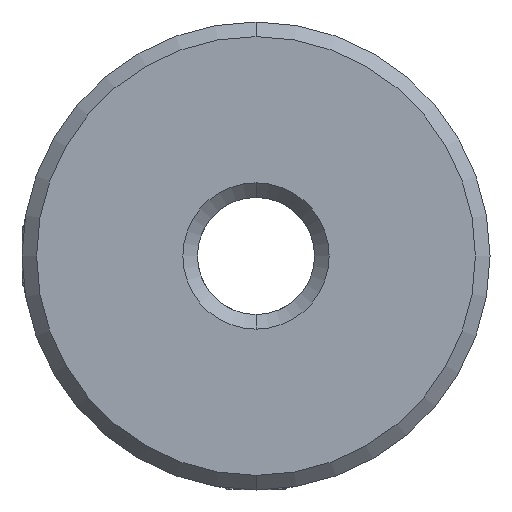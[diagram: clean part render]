
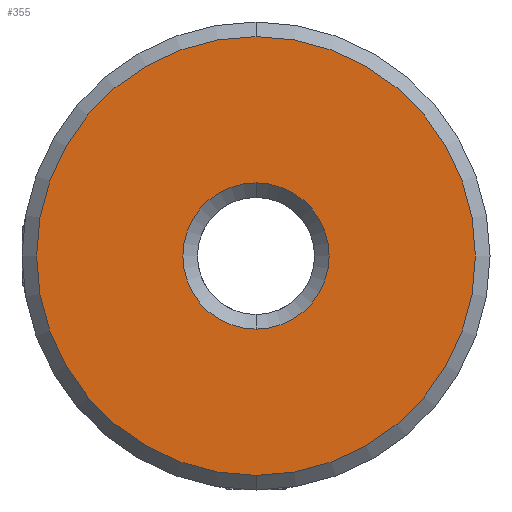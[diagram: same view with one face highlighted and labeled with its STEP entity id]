
A CAD part, front view. The second image highlights one B-rep face of the part: STEP entity #355.
In plain terms, the highlighted planar face has unit normal (0, -1, 0).
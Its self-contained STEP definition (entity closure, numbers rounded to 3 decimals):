
#148 = ORIENTED_EDGE ( 'NONE', *, *, #1075, .T. ) ;
#152 = DIRECTION ( 'NONE',  ( 0., 0., 1. ) ) ;
#212 = DIRECTION ( 'NONE',  ( 0., 0., 1. ) ) ;
#295 = FACE_OUTER_BOUND ( 'NONE', #1727, .T. ) ;
#355 = ADVANCED_FACE ( 'NONE', ( #295, #2542 ), #1468, .F. ) ;
#405 = CIRCLE ( 'NONE', #1787, 2.5 ) ;
#419 = EDGE_CURVE ( 'NONE', #648, #487, #2656, .T. ) ;
#487 = VERTEX_POINT ( 'NONE', #3124 ) ;
#562 = CARTESIAN_POINT ( 'NONE',  ( -10.188, -12.277, 0.046 ) ) ;
#577 = DIRECTION ( 'NONE',  ( 0., 0., 1. ) ) ;
#614 = DIRECTION ( 'NONE',  ( 0., 1., 0. ) ) ;
#617 = EDGE_CURVE ( 'NONE', #3062, #1424, #812, .T. ) ;
#648 = VERTEX_POINT ( 'NONE', #1403 ) ;
#812 = CIRCLE ( 'NONE', #1801, 7.5 ) ;
#840 = DIRECTION ( 'NONE',  ( 0., 1., 0. ) ) ;
#931 = ORIENTED_EDGE ( 'NONE', *, *, #2063, .T. ) ;
#980 = CARTESIAN_POINT ( 'NONE',  ( -10.188, -12.277, 0.046 ) ) ;
#1075 = EDGE_CURVE ( 'NONE', #487, #648, #405, .T. ) ;
#1083 = ORIENTED_EDGE ( 'NONE', *, *, #419, .T. ) ;
#1086 = DIRECTION ( 'NONE',  ( 0., 0., 1. ) ) ;
#1299 = EDGE_LOOP ( 'NONE', ( #1083, #148 ) ) ;
#1400 = CARTESIAN_POINT ( 'NONE',  ( -10.188, -12.277, 0.046 ) ) ;
#1403 = CARTESIAN_POINT ( 'NONE',  ( -10.188, -12.277, -2.454 ) ) ;
#1424 = VERTEX_POINT ( 'NONE', #1595 ) ;
#1468 = PLANE ( 'NONE',  #2368 ) ;
#1526 = CARTESIAN_POINT ( 'NONE',  ( -10.188, -12.277, 0.046 ) ) ;
#1595 = CARTESIAN_POINT ( 'NONE',  ( -10.188, -12.277, -7.454 ) ) ;
#1664 = DIRECTION ( 'NONE',  ( 0., 0., 1. ) ) ;
#1727 = EDGE_LOOP ( 'NONE', ( #3281, #931 ) ) ;
#1787 = AXIS2_PLACEMENT_3D ( 'NONE', #2984, #2457, #212 ) ;
#1801 = AXIS2_PLACEMENT_3D ( 'NONE', #980, #3032, #1086 ) ;
#1861 = AXIS2_PLACEMENT_3D ( 'NONE', #562, #614, #1664 ) ;
#1976 = CIRCLE ( 'NONE', #2546, 7.5 ) ;
#2063 = EDGE_CURVE ( 'NONE', #1424, #3062, #1976, .T. ) ;
#2368 = AXIS2_PLACEMENT_3D ( 'NONE', #1400, #840, #577 ) ;
#2457 = DIRECTION ( 'NONE',  ( 0., 1., 0. ) ) ;
#2542 = FACE_BOUND ( 'NONE', #1299, .T. ) ;
#2546 = AXIS2_PLACEMENT_3D ( 'NONE', #1526, #2622, #152 ) ;
#2622 = DIRECTION ( 'NONE',  ( 0., -1., 0. ) ) ;
#2656 = CIRCLE ( 'NONE', #1861, 2.5 ) ;
#2984 = CARTESIAN_POINT ( 'NONE',  ( -10.188, -12.277, 0.046 ) ) ;
#3032 = DIRECTION ( 'NONE',  ( 0., -1., 0. ) ) ;
#3062 = VERTEX_POINT ( 'NONE', #3517 ) ;
#3124 = CARTESIAN_POINT ( 'NONE',  ( -10.188, -12.277, 2.546 ) ) ;
#3281 = ORIENTED_EDGE ( 'NONE', *, *, #617, .T. ) ;
#3517 = CARTESIAN_POINT ( 'NONE',  ( -10.188, -12.277, 7.546 ) ) ;
